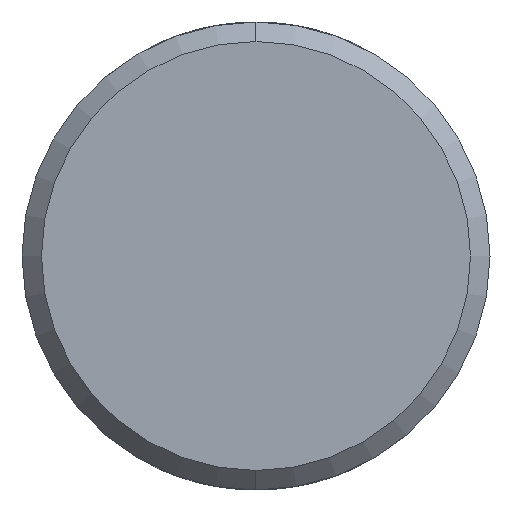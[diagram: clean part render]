
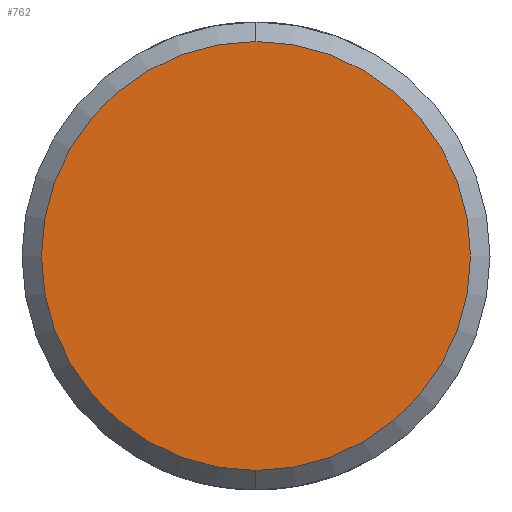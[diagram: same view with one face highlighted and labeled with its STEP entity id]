
A CAD part, left-side view. The second image highlights one B-rep face of the part: STEP entity #762.
In plain terms, the highlighted planar face has unit normal (-1, 0, 0).
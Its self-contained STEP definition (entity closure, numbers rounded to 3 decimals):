
#46 = EDGE_CURVE ( 'NONE', #513, #793, #635, .T. ) ;
#137 = DIRECTION ( 'NONE',  ( 0., 0., -1. ) ) ;
#151 = CIRCLE ( 'NONE', #265, 5.5 ) ;
#199 = ORIENTED_EDGE ( 'NONE', *, *, #46, .T. ) ;
#204 = CARTESIAN_POINT ( 'NONE',  ( -106.5, 0., -5.5 ) ) ;
#250 = AXIS2_PLACEMENT_3D ( 'NONE', #785, #633, #863 ) ;
#265 = AXIS2_PLACEMENT_3D ( 'NONE', #913, #290, #137 ) ;
#273 = DIRECTION ( 'NONE',  ( 0., 0., -1. ) ) ;
#290 = DIRECTION ( 'NONE',  ( -1., 0., 0. ) ) ;
#513 = VERTEX_POINT ( 'NONE', #610 ) ;
#571 = FACE_OUTER_BOUND ( 'NONE', #802, .T. ) ;
#610 = CARTESIAN_POINT ( 'NONE',  ( -106.5, 0., 5.5 ) ) ;
#633 = DIRECTION ( 'NONE',  ( -1., 0., 0. ) ) ;
#635 = CIRCLE ( 'NONE', #250, 5.5 ) ;
#735 = PLANE ( 'NONE',  #915 ) ;
#762 = ADVANCED_FACE ( 'NONE', ( #571 ), #735, .F. ) ;
#785 = CARTESIAN_POINT ( 'NONE',  ( -106.5, 0., 0. ) ) ;
#793 = VERTEX_POINT ( 'NONE', #204 ) ;
#802 = EDGE_LOOP ( 'NONE', ( #896, #199 ) ) ;
#863 = DIRECTION ( 'NONE',  ( 0., 0., -1. ) ) ;
#883 = EDGE_CURVE ( 'NONE', #793, #513, #151, .T. ) ;
#896 = ORIENTED_EDGE ( 'NONE', *, *, #883, .T. ) ;
#898 = CARTESIAN_POINT ( 'NONE',  ( -106.5, 0., 0. ) ) ;
#904 = DIRECTION ( 'NONE',  ( 1., 0., 0. ) ) ;
#913 = CARTESIAN_POINT ( 'NONE',  ( -106.5, 0., 0. ) ) ;
#915 = AXIS2_PLACEMENT_3D ( 'NONE', #898, #904, #273 ) ;
